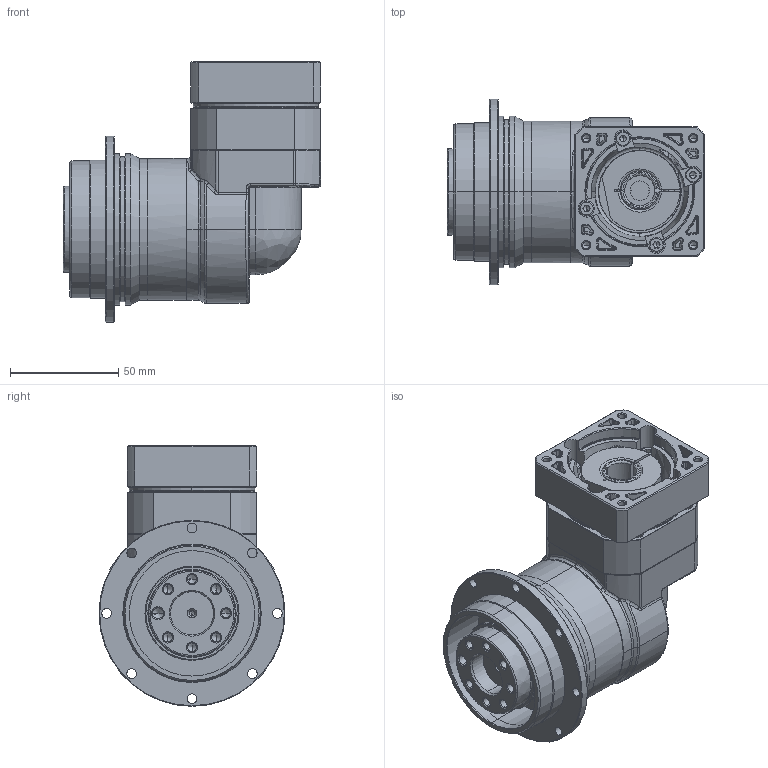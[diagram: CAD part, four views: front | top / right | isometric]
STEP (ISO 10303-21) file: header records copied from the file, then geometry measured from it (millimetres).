
FILE_DESCRIPTION (( 'STEP AP214' ), '1' );
FILE_NAME ('EVT064F-L1-P1 14-50-70-M4-33.STEP', '2025-02-17T03:46:38', ( '微软用户' ), ( '微软中国' ), 'SwSTEP 2.0', 'SolidWorks 2021', '' );
FILE_SCHEMA (( 'AUTOMOTIVE_DESIGN' ));
Length unit declared in the file: millimetre
Products named in the file (3): EVT064F-L1-P1 14-50-70-M4-33; 3.EVT064F眻褒眊极_step_stp_stp.stp; EVTR064D-L1-14-50-70-M4-33
Assembly tree (2 placements, depth 2):
  EVT064F-L1-P1 14-50-70-M4-33
    EVTR064D-L1-14-50-70-M4-33
    3.EVT064F眻褒眊极_step_stp_stp.stp
Bounding box: 119 x 86 x 120.5 mm (x, y, z)
Volume: 92080.2 mm3; surface area: 117291.8 mm2
Topology: 1 solids, 25 shells, 1421 faces, 3490 edges, 2125 vertices
Faces by surface type: cylinder 449, plane 351, bspline 301, cone 282, torus 38
Entity records: 62289 total; most frequent: CARTESIAN_POINT 31093, ORIENTED_EDGE 6760, DIRECTION 5963, EDGE_CURVE 3400, AXIS2_PLACEMENT_3D 2407, VERTEX_POINT 2125, EDGE_LOOP 1590, ADVANCED_FACE 1421
